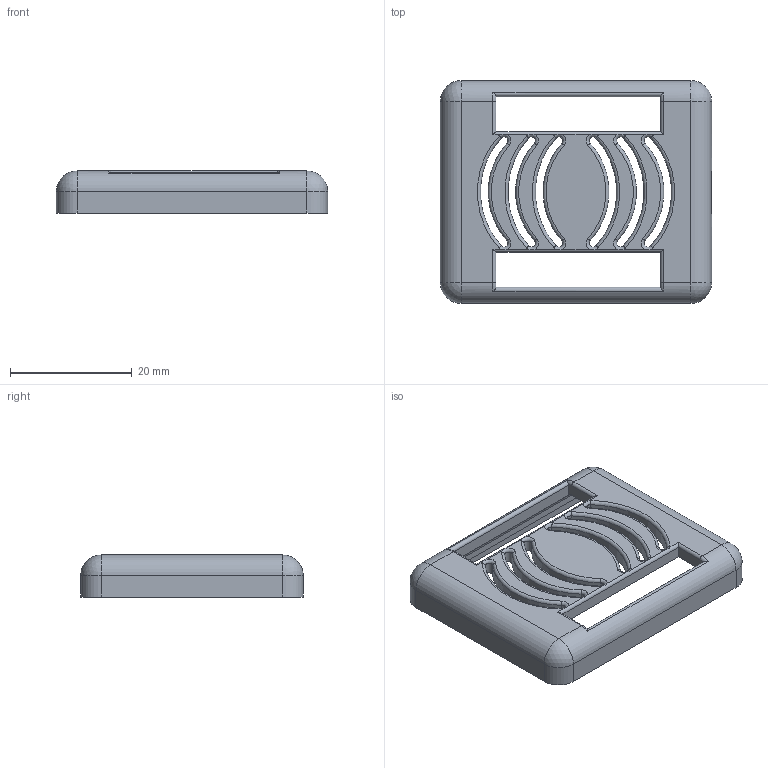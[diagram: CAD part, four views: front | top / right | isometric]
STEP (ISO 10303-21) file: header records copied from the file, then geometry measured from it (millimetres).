
FILE_DESCRIPTION(/* description */ (''),/* implementation_level */ '2;1');
FILE_NAME(/* name */ 'C:/Users/ROB4759/Downloads/Lights/Esp32 v18.step',/* time_stamp */ '2021-05-04T16:21:17+02:00',/* author */ (''),/* organization */ (''),/* preprocessor_version */ 'ST-DEVELOPER v18.1',/* originating_system */ 'Autodesk Translation Framework v10.6.0.1341',/* authorisation */ '');
FILE_SCHEMA (('AUTOMOTIVE_DESIGN { 1 0 10303 214 3 1 1 }'));
Length unit declared in the file: millimetre
Products named in the file (2): Esp32; Case
Assembly tree (1 placements, depth 2):
  Esp32
    Case
Bounding box: 44.5 x 36.5 x 6.9 mm (x, y, z)
Volume: 3495.4 mm3; surface area: 4512.8 mm2
Topology: 1 solids, 1 shells, 136 faces, 368 edges, 224 vertices
Faces by surface type: cylinder 59, plane 37, torus 30, sphere 8, bspline 2
Entity records: 4689 total; most frequent: CARTESIAN_POINT 1089, DIRECTION 804, ORIENTED_EDGE 736, EDGE_CURVE 368, AXIS2_PLACEMENT_3D 323, VERTEX_POINT 224, CIRCLE 182, LINE 158
